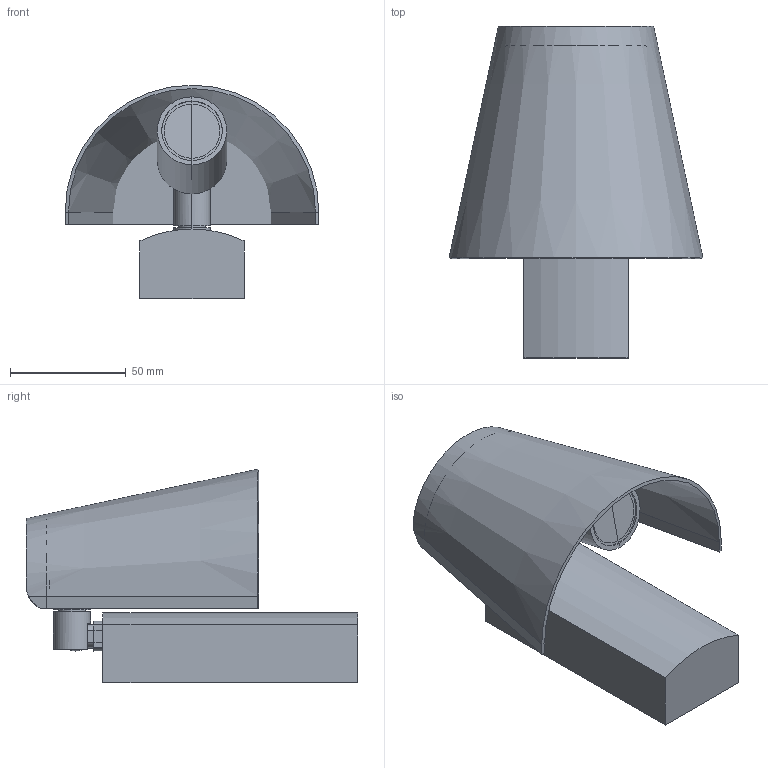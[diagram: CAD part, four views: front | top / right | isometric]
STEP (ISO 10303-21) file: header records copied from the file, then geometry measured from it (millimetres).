
FILE_DESCRIPTION(/* description */ (''),/* implementation_level */ '2;1');
FILE_NAME(/* name */ 'C:\Users\Franco Sartori E\Documents\FARO\DUPLICADO\Modelos\01_Digitalizados\0_LE PETIT\03_Publicación\62162 - Vista 3D - Export.stp',/* time_stamp */ '2020-07-23T10:33:32+02:00',/* author */ ('Franco Sartori E'),/* organization */ (''),/* preprocessor_version */ 'ST-DEVELOPER v18',/* originating_system */ 'AutoCAD Mechanical',/* authorisation */ '');
FILE_SCHEMA (('AUTOMOTIVE_DESIGN { 1 0 10303 214 3 1 1 }'));
Length unit declared in the file: millimetre
Products named in the file (2): Product; 62161_62162_62163_62164_LEPETIT - LE PETIT-449251-Export
Assembly tree (1 placements, depth 2):
  Product
    62161_62162_62163_62164_LEPETIT - LE PETIT-449251-Export
Bounding box: 109.41 x 143.05 x 92.1 mm (x, y, z)
Volume: 79979 mm3; surface area: 86428.9 mm2
Topology: 14 solids, 14 shells, 141 faces, 307 edges, 189 vertices
Faces by surface type: plane 88, cylinder 47, cone 4, sphere 2
Entity records: 3946 total; most frequent: CARTESIAN_POINT 743, DIRECTION 683, ORIENTED_EDGE 610, EDGE_CURVE 305, AXIS2_PLACEMENT_3D 242, LINE 199, VECTOR 199, VERTEX_POINT 189
